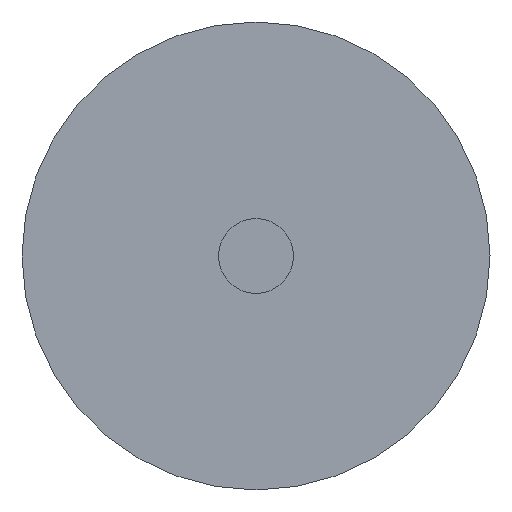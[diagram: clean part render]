
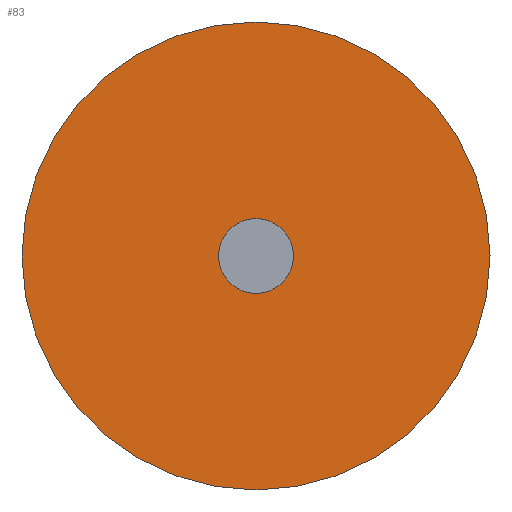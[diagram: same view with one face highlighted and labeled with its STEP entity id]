
A CAD part, left-side view. The second image highlights one B-rep face of the part: STEP entity #83.
In plain terms, the highlighted planar face has unit normal (-1, 0, 0).
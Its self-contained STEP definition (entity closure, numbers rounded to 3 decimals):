
#19=PLANE('',#98);
#29=FACE_OUTER_BOUND('',#39,.T.);
#39=EDGE_LOOP('',(#69));
#50=CIRCLE('',#97,2.5);
#56=VERTEX_POINT('',#146);
#62=EDGE_CURVE('',#56,#56,#50,.T.);
#69=ORIENTED_EDGE('',*,*,#62,.T.);
#83=ADVANCED_FACE('',(#29),#19,.F.);
#97=AXIS2_PLACEMENT_3D('',#147,#116,#117);
#98=AXIS2_PLACEMENT_3D('',#148,#118,#119);
#116=DIRECTION('center_axis',(-1.,0.,0.));
#117=DIRECTION('ref_axis',(0.,-1.,0.));
#118=DIRECTION('center_axis',(1.,0.,0.));
#119=DIRECTION('ref_axis',(0.,0.,-1.));
#146=CARTESIAN_POINT('',(0.,2.5,0.));
#147=CARTESIAN_POINT('Origin',(0.,0.,0.));
#148=CARTESIAN_POINT('Origin',(0.,0.,0.));
